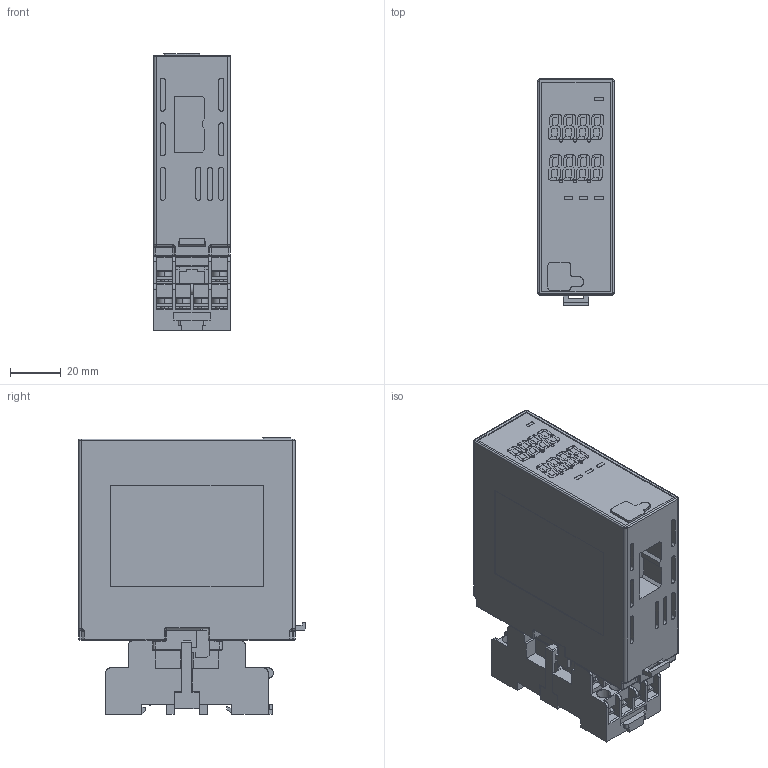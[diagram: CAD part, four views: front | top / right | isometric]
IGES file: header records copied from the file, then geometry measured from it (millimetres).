
Start section: SolidWorks IGES file using analytic representation for surfaces
Global section: file name: E:\temp1\200421_HP掲載用データ作成\WIL\提出用データ\SolidWorks\AS_WIL_HP用_200421.IGS; native system: SolidWorks 2018; preprocessor: SolidWorks 2018; author: kawahara; date: 200515.113647; units: millimetre
Bounding box: 30 x 89.42 x 108.6 mm (x, y, z)
Surface area: 46467.6 mm2 (no closed solid volume)
Topology: 0 solids, 0 shells, 1742 faces, 15486 edges, 15466 vertices
Faces by surface type: bspline 1303, revolution 439
